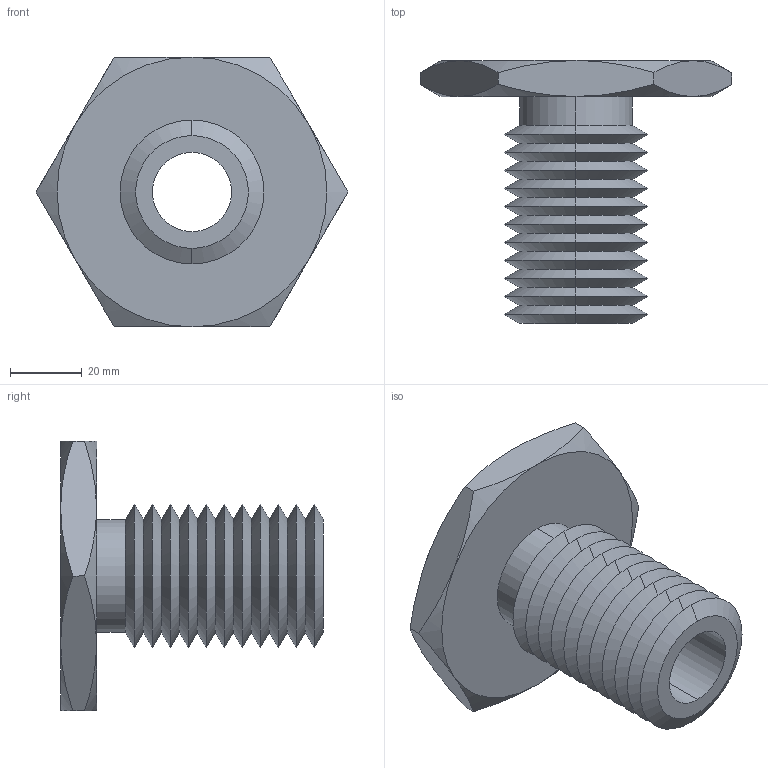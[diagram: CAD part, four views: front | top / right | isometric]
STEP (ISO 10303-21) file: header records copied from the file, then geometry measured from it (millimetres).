
FILE_DESCRIPTION (( 'STEP AP203' ), '1' );
FILE_NAME ('63302.W0042_M22x2,5.step', '2013-12-08T11:13:44', ( 'User' ), ( '' ), 'SwSTEP 2.0', 'SolidWorks 2009', '' );
FILE_SCHEMA (( 'CONFIG_CONTROL_DESIGN' ));
Length unit declared in the file: millimetre
Products named in the file (1): 63302.W0042_M22x2,5
Bounding box: 86.6 x 73 x 75 mm (x, y, z)
Volume: 81217.8 mm3; surface area: 29190.5 mm2
Topology: 1 solids, 1 shells, 71 faces, 146 edges, 78 vertices
Faces by surface type: cone 58, plane 9, cylinder 4
Entity records: 2039 total; most frequent: CARTESIAN_POINT 480, DIRECTION 332, ORIENTED_EDGE 292, EDGE_CURVE 146, AXIS2_PLACEMENT_3D 138, VERTEX_POINT 78, EDGE_LOOP 74, ADVANCED_FACE 71
